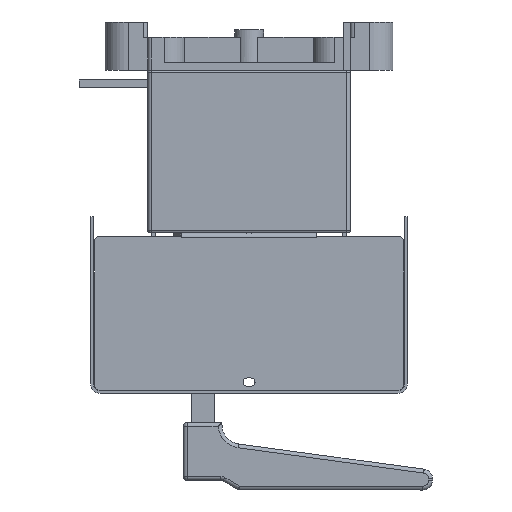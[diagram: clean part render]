
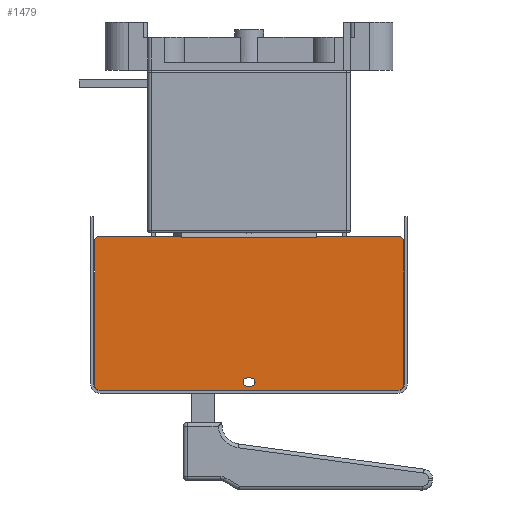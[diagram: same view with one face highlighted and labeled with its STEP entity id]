
A CAD part, left-side view. The second image highlights one B-rep face of the part: STEP entity #1479.
In plain terms, the highlighted planar face has unit normal (-1, 0, 0).
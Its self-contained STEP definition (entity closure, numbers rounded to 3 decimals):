
#168=FACE_BOUND('',#4297,.T.);
#169=FACE_BOUND('',#4298,.T.);
#573=PLANE('',#23376);
#1479=ADVANCED_FACE('',(#168,#169),#573,.T.);
#4297=EDGE_LOOP('',(#11605,#11606,#11607,#11608));
#4298=EDGE_LOOP('',(#11609,#11610,#11611,#11612,#11613,#11614,#11615,#11616,
#11617,#11618,#11619,#11620,#11621,#11622));
#5830=LINE('',#32667,#8207);
#5931=LINE('',#32960,#8308);
#5945=LINE('',#32991,#8322);
#5947=LINE('',#32995,#8324);
#5949=LINE('',#32999,#8326);
#5952=LINE('',#33005,#8329);
#5962=LINE('',#33038,#8339);
#5963=LINE('',#33042,#8340);
#5964=LINE('',#33043,#8341);
#5965=LINE('',#33047,#8342);
#5966=LINE('',#33052,#8343);
#5967=LINE('',#33056,#8344);
#8207=VECTOR('',#26125,1.);
#8308=VECTOR('',#26404,1.);
#8322=VECTOR('',#26434,1.);
#8324=VECTOR('',#26438,1.);
#8326=VECTOR('',#26442,1.);
#8329=VECTOR('',#26447,1.);
#8339=VECTOR('',#26475,1.);
#8340=VECTOR('',#26478,1.);
#8341=VECTOR('',#26479,1.);
#8342=VECTOR('',#26482,1.);
#8343=VECTOR('',#26487,1.);
#8344=VECTOR('',#26490,1.);
#11605=ORIENTED_EDGE('',*,*,#19562,.T.);
#11606=ORIENTED_EDGE('',*,*,#19563,.T.);
#11607=ORIENTED_EDGE('',*,*,#19564,.T.);
#11608=ORIENTED_EDGE('',*,*,#19565,.T.);
#11609=ORIENTED_EDGE('',*,*,#19541,.F.);
#11610=ORIENTED_EDGE('',*,*,#19539,.T.);
#11611=ORIENTED_EDGE('',*,*,#19522,.T.);
#11612=ORIENTED_EDGE('',*,*,#19543,.T.);
#11613=ORIENTED_EDGE('',*,*,#19546,.F.);
#11614=ORIENTED_EDGE('',*,*,#19566,.T.);
#11615=ORIENTED_EDGE('',*,*,#19567,.T.);
#11616=ORIENTED_EDGE('',*,*,#19568,.T.);
#11617=ORIENTED_EDGE('',*,*,#19569,.T.);
#11618=ORIENTED_EDGE('',*,*,#19380,.T.);
#11619=ORIENTED_EDGE('',*,*,#19570,.T.);
#11620=ORIENTED_EDGE('',*,*,#19571,.T.);
#11621=ORIENTED_EDGE('',*,*,#19572,.T.);
#11622=ORIENTED_EDGE('',*,*,#19573,.T.);
#17055=VERTEX_POINT('',#32631);
#17058=VERTEX_POINT('',#32642);
#17160=VERTEX_POINT('',#32959);
#17161=VERTEX_POINT('',#32961);
#17168=VERTEX_POINT('',#32988);
#17171=VERTEX_POINT('',#32996);
#17172=VERTEX_POINT('',#33000);
#17174=VERTEX_POINT('',#33006);
#17186=VERTEX_POINT('',#33036);
#17187=VERTEX_POINT('',#33037);
#17188=VERTEX_POINT('',#33039);
#17189=VERTEX_POINT('',#33041);
#17190=VERTEX_POINT('',#33044);
#17191=VERTEX_POINT('',#33046);
#17192=VERTEX_POINT('',#33048);
#17193=VERTEX_POINT('',#33051);
#17194=VERTEX_POINT('',#33053);
#17195=VERTEX_POINT('',#33055);
#19380=EDGE_CURVE('',#17058,#17055,#5830,.T.);
#19522=EDGE_CURVE('',#17161,#17160,#5931,.T.);
#19539=EDGE_CURVE('',#17168,#17161,#5945,.T.);
#19541=EDGE_CURVE('',#17168,#17171,#5947,.T.);
#19543=EDGE_CURVE('',#17160,#17172,#5949,.T.);
#19546=EDGE_CURVE('',#17174,#17172,#5952,.T.);
#19562=EDGE_CURVE('',#17186,#17187,#22266,.T.);
#19563=EDGE_CURVE('',#17187,#17188,#5962,.T.);
#19564=EDGE_CURVE('',#17188,#17189,#22267,.T.);
#19565=EDGE_CURVE('',#17189,#17186,#5963,.T.);
#19566=EDGE_CURVE('',#17174,#17190,#5964,.T.);
#19567=EDGE_CURVE('',#17190,#17191,#22268,.T.);
#19568=EDGE_CURVE('',#17191,#17192,#5965,.T.);
#19569=EDGE_CURVE('',#17192,#17058,#22269,.T.);
#19570=EDGE_CURVE('',#17055,#17193,#22270,.T.);
#19571=EDGE_CURVE('',#17193,#17194,#5966,.T.);
#19572=EDGE_CURVE('',#17194,#17195,#22271,.T.);
#19573=EDGE_CURVE('',#17195,#17171,#5967,.T.);
#22266=CIRCLE('',#23370,2.1);
#22267=CIRCLE('',#23371,2.1);
#22268=CIRCLE('',#23372,3.);
#22269=CIRCLE('',#23373,3.);
#22270=CIRCLE('',#23374,3.);
#22271=CIRCLE('',#23375,3.);
#23370=AXIS2_PLACEMENT_3D('',#33035,#26473,#26474);
#23371=AXIS2_PLACEMENT_3D('',#33040,#26476,#26477);
#23372=AXIS2_PLACEMENT_3D('',#33045,#26480,#26481);
#23373=AXIS2_PLACEMENT_3D('',#33049,#26483,#26484);
#23374=AXIS2_PLACEMENT_3D('',#33050,#26485,#26486);
#23375=AXIS2_PLACEMENT_3D('',#33054,#26488,#26489);
#23376=AXIS2_PLACEMENT_3D('',#33057,#26491,#26492);
#26125=DIRECTION('',(0.,-1.,0.));
#26404=DIRECTION('',(0.,1.,0.));
#26434=DIRECTION('',(0.,1.,0.));
#26438=DIRECTION('',(0.,0.,1.));
#26442=DIRECTION('',(0.,1.,0.));
#26447=DIRECTION('',(0.,0.,-1.));
#26473=DIRECTION('',(1.,0.,0.));
#26474=DIRECTION('',(0.,1.,0.));
#26475=DIRECTION('',(0.,-1.,0.));
#26476=DIRECTION('',(1.,0.,0.));
#26477=DIRECTION('',(0.,1.,0.));
#26478=DIRECTION('',(0.,1.,0.));
#26479=DIRECTION('',(0.,1.,0.));
#26480=DIRECTION('',(-1.,0.,0.));
#26481=DIRECTION('',(0.,1.,0.));
#26482=DIRECTION('',(0.,0.,-1.));
#26483=DIRECTION('',(-1.,0.,0.));
#26484=DIRECTION('',(0.,1.,0.));
#26485=DIRECTION('',(-1.,0.,0.));
#26486=DIRECTION('',(0.,1.,0.));
#26487=DIRECTION('',(0.,0.,1.));
#26488=DIRECTION('',(-1.,0.,0.));
#26489=DIRECTION('',(0.,1.,0.));
#26490=DIRECTION('',(0.,1.,0.));
#26491=DIRECTION('',(-1.,0.,0.));
#26492=DIRECTION('',(0.,-1.,0.));
#32631=CARTESIAN_POINT('',(-189.3,-77.,-165.8));
#32642=CARTESIAN_POINT('',(-189.3,77.,-165.8));
#32667=CARTESIAN_POINT('',(-189.3,77.,-165.8));
#32959=CARTESIAN_POINT('',(-189.3,35.,-86.8));
#32960=CARTESIAN_POINT('',(-189.3,50.5,-86.8));
#32961=CARTESIAN_POINT('',(-189.3,-35.,-86.8));
#32988=CARTESIAN_POINT('',(-189.3,-35.002,-86.8));
#32991=CARTESIAN_POINT('',(-189.3,77.,-86.8));
#32995=CARTESIAN_POINT('',(-189.3,-35.002,-162.8));
#32996=CARTESIAN_POINT('',(-189.3,-35.002,-85.8));
#32999=CARTESIAN_POINT('',(-189.3,77.,-86.8));
#33000=CARTESIAN_POINT('',(-189.3,35.002,-86.8));
#33005=CARTESIAN_POINT('',(-189.3,35.002,-162.8));
#33006=CARTESIAN_POINT('',(-189.3,35.002,-85.8));
#33035=CARTESIAN_POINT('',(-189.3,1.,-161.4));
#33036=CARTESIAN_POINT('',(-189.3,1.,-163.5));
#33037=CARTESIAN_POINT('',(-189.3,1.,-159.3));
#33038=CARTESIAN_POINT('',(-189.3,1.,-159.3));
#33039=CARTESIAN_POINT('',(-189.3,-1.,-159.3));
#33040=CARTESIAN_POINT('',(-189.3,-1.,-161.4));
#33041=CARTESIAN_POINT('',(-189.3,-1.,-163.5));
#33042=CARTESIAN_POINT('',(-189.3,-1.,-163.5));
#33043=CARTESIAN_POINT('',(-189.3,-77.,-85.8));
#33044=CARTESIAN_POINT('',(-189.3,77.,-85.8));
#33045=CARTESIAN_POINT('',(-189.3,77.,-88.8));
#33046=CARTESIAN_POINT('',(-189.3,80.,-88.8));
#33047=CARTESIAN_POINT('',(-189.3,80.,-88.8));
#33048=CARTESIAN_POINT('',(-189.3,80.,-162.8));
#33049=CARTESIAN_POINT('',(-189.3,77.,-162.8));
#33050=CARTESIAN_POINT('',(-189.3,-77.,-162.8));
#33051=CARTESIAN_POINT('',(-189.3,-80.,-162.8));
#33052=CARTESIAN_POINT('',(-189.3,-80.,-162.8));
#33053=CARTESIAN_POINT('',(-189.3,-80.,-88.8));
#33054=CARTESIAN_POINT('',(-189.3,-77.,-88.8));
#33055=CARTESIAN_POINT('',(-189.3,-77.,-85.8));
#33056=CARTESIAN_POINT('',(-189.3,-77.,-85.8));
#33057=CARTESIAN_POINT('',(-189.3,77.,-162.8));
